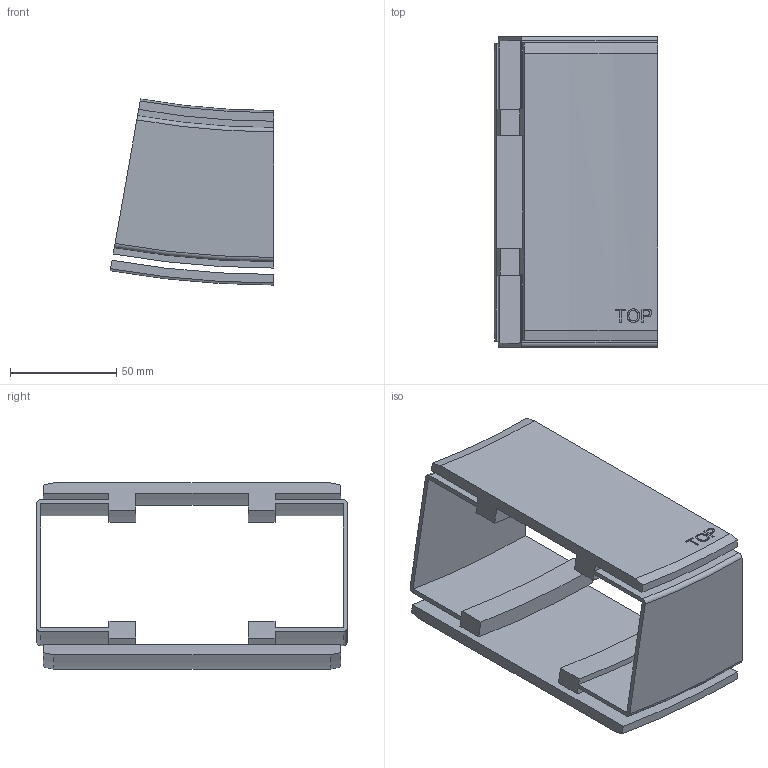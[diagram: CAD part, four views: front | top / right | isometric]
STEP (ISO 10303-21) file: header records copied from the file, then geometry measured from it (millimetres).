
FILE_DESCRIPTION(/* description */ ('VERTIKALKURVA S540 R400'),/* implementation_level */ '2;1');
FILE_NAME(/* name */ '540-5645+140-2000-UPP-01.stp',/* time_stamp */ '2022-09-21T10:25:36+02:00',/* author */ ('Mathias.Dore'),/* organization */ ('CARRYLINE'),/* preprocessor_version */ 'ST-DEVELOPER v19.2',/* originating_system */ 'Autodesk Inventor 2023',/* authorisation */ '');
FILE_SCHEMA (('AUTOMOTIVE_DESIGN { 1 0 10303 214 3 1 1 }'));
Length unit declared in the file: millimetre
Products named in the file (1): 540-5645+140-2000-UPP-01
Bounding box: 76.84 x 146 x 87.48 mm (x, y, z)
Volume: 160551.6 mm3; surface area: 87915.2 mm2
Topology: 2 solids, 2 shells, 87 faces, 234 edges, 156 vertices
Faces by surface type: plane 40, cylinder 25, bspline 14, cone 4, torus 4
Entity records: 7357 total; most frequent: CARTESIAN_POINT 5158, ORIENTED_EDGE 468, DIRECTION 408, EDGE_CURVE 234, VERTEX_POINT 156, AXIS2_PLACEMENT_3D 141, LINE 126, VECTOR 126
